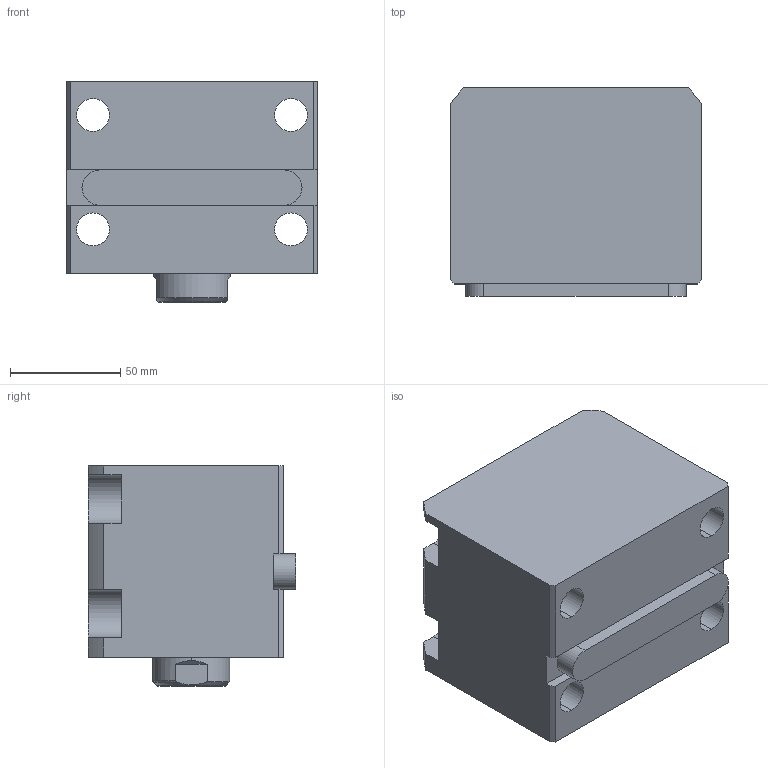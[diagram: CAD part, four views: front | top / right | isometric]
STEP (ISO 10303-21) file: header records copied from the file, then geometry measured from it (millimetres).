
FILE_DESCRIPTION (( 'STEP AP214' ), '1' );
FILE_NAME ('chtb-la63x20n_asm.STEP', '2018-05-02T07:22:33', ( 'Windows' ), ( 'Microsoft' ), 'SwSTEP 2.0', 'SolidWorks 2015', '' );
FILE_SCHEMA (( 'AUTOMOTIVE_DESIGN' ));
Length unit declared in the file: millimetre
Products named in the file (5): CHTB-LA63X20NBT; CHTB-LA63PJ; CHTB63X20NHSG; CHTB-63QG; chtb-la63x20n_asm
Assembly tree (4 placements, depth 2):
  chtb-la63x20n_asm
    CHTB-63QG
    CHTB63X20NHSG
    CHTB-LA63PJ
    CHTB-LA63X20NBT
Bounding box: 114 x 94.5 x 100 mm (x, y, z)
Volume: 763382.9 mm3; surface area: 131057.9 mm2
Topology: 4 solids, 4 shells, 174 faces, 510 edges, 348 vertices
Faces by surface type: cylinder 98, plane 45, bspline 12, cone 12, torus 7
Entity records: 18199 total; most frequent: CARTESIAN_POINT 13678, ORIENTED_EDGE 1008, DIRECTION 778, EDGE_CURVE 504, VERTEX_POINT 348, AXIS2_PLACEMENT_3D 295, EDGE_LOOP 198, LINE 188
